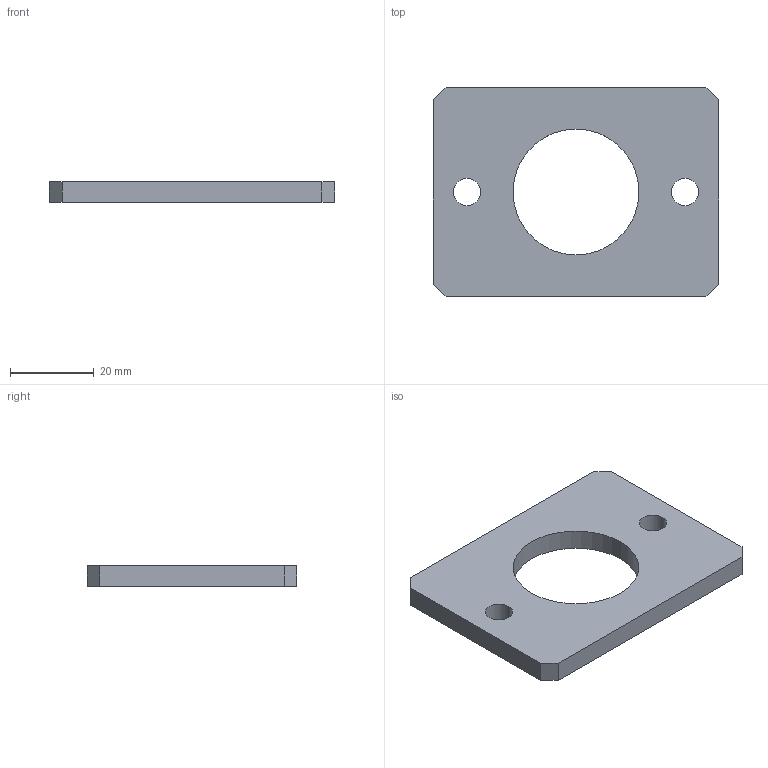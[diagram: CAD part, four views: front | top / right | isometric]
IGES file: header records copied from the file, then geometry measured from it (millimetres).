
Global section: file name: No Iges File Name specified; native system: AutoDesk Inventor R6.0; preprocessor: AutoDesk Inventor Iges Exporter R6.0; author: No Author specified; organization: No Organization specified; date: 20030408.081841; units: millimetre
Bounding box: 68 x 50 x 5 mm (x, y, z)
Volume: 13043.9 mm3; surface area: 7037.8 mm2
Topology: 1 solids, 1 shells, 16 faces, 42 edges, 28 vertices
Faces by surface type: plane 10, revolution 6
